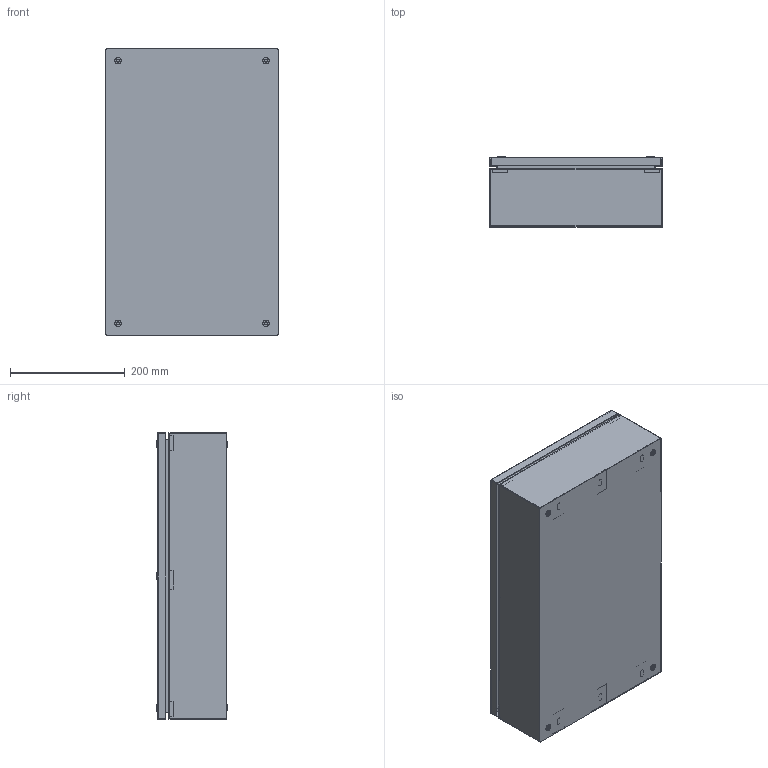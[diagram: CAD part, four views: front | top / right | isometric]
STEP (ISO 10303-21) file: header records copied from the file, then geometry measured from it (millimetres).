
FILE_DESCRIPTION(('Open CASCADE Model'),'2;1');
FILE_NAME('Open CASCADE Shape Model','2025-11-12T17:52:00',('Author'),( 'Open CASCADE'),'Open CASCADE STEP processor 7.8','Open CASCADE 7.8' ,'Unknown');
FILE_SCHEMA(('AUTOMOTIVE_DESIGN { 1 0 10303 214 1 1 1 1 }'));
Length unit declared in the file: millimetre
Products named in the file (17): Compound1; Compound2; Compound3; Solid1; Solid2; Solid3; Solid4; Solid5; Solid6; Compound4; Compound5; Solid7; Solid8; Solid9; Solid10; Solid11; Solid12
Assembly tree (39 placements, depth 5):
  Compound1
    Compound2
      Compound3
        Solid1
        Solid2  x2
        Solid3  x2
        Solid4  x2
        Solid5
        Solid6  x2
      Compound4
        Compound5
          Solid7
          Solid5
        Solid8
      Solid9  x6
      Solid10  x6
      Solid11  x6
    Solid12  x4
Bounding box: 300 x 123.79 x 500 mm (x, y, z)
Volume: 824144.4 mm3; surface area: 1198758.9 mm2
Topology: 35 solids, 35 shells, 1256 faces, 3400 edges, 2248 vertices
Faces by surface type: plane 916, cylinder 188, cone 68, torus 40, bspline 32, sphere 12
Full cylindrical faces by diameter (mm): 1.5 x4, 4 x22, 4.134 x6, 5 x10, 5.2 x6, 5.3 x6, 5.5 x6, 6 x2, 6.5 x4, 7.5 x8, 8 x10, 8.5 x6, 11.5 x4, 13.5 x6, 15.791 x6
Entity records: 17108 total; most frequent: CARTESIAN_POINT 4675, ORIENTED_EDGE 2588, DIRECTION 2377, EDGE_CURVE 1294, LINE 877, VECTOR 877, VERTEX_POINT 856, AXIS2_PLACEMENT_3D 750
